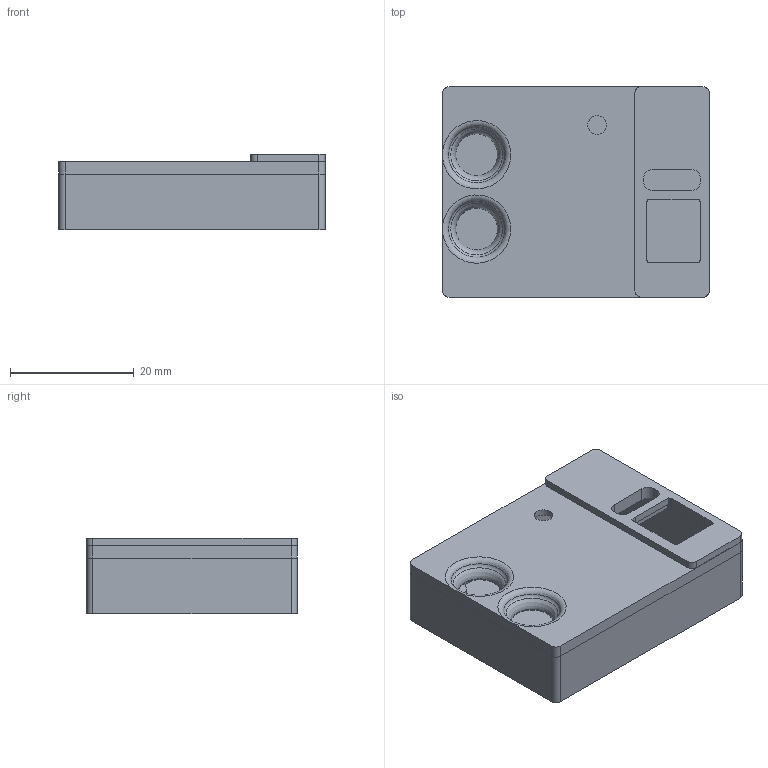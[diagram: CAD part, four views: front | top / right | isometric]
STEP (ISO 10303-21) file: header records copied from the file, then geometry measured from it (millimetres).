
FILE_DESCRIPTION(/* description */ ('STEP AP242 Edition 2','CAx-IF Rec.Pracs.---Representation and Presentation of Product Manufacturing Information (PMI)---4.0---2014-10-13','CAx-IF Rec.Pracs.---3D Tessellated Geometry---0.4---2014-09-14','2;1','CAx-IF Rec.Pracs.---User Defined Attributes---1.5---2016-08-15'),/* implementation_level */ '2;1');
FILE_NAME(/* name */ '6afcdccce1efb3b8968ca97b',/* time_stamp */ '2026-11-17T23:01:34Z',/* author */ (''),/* organization */ (''),/* preprocessor_version */ 'ST-DEVELOPER v20',/* originating_system */ 'ONSHAPE BY PTC INC, 1.223',/* authorisation */ ' ');
FILE_SCHEMA (('AP242_MANAGED_MODEL_BASED_3D_ENGINEERING_MIM_LF { 1 0 10303 442 3 1 4 }'));
Length unit declared in the file: metre
Products named in the file (3): HereX Case; Fillet2; id11
Assembly tree (2 placements, depth 2):
  HereX Case
    Fillet2
    id11
Bounding box: 43 x 34 x 12.2 mm (x, y, z)
Volume: 4823.8 mm3; surface area: 9602.1 mm2
Topology: 2 solids, 2 shells, 252 faces, 919 edges, 685 vertices
Faces by surface type: plane 116, cylinder 114, bspline 16, torus 6
Full cylindrical faces by diameter (mm): 1.7 x4, 2.5 x24, 3 x9, 6.75 x2, 8.75 x2
Entity records: 20794 total; most frequent: CARTESIAN_POINT 13746, ORIENTED_EDGE 1724, DIRECTION 1126, EDGE_CURVE 862, VERTEX_POINT 679, AXIS2_PLACEMENT_3D 396, B_SPLINE_CURVE_WITH_KNOTS 347, LINE 334
